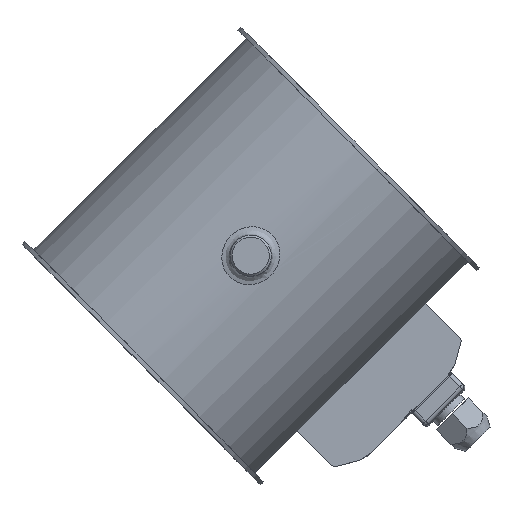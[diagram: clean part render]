
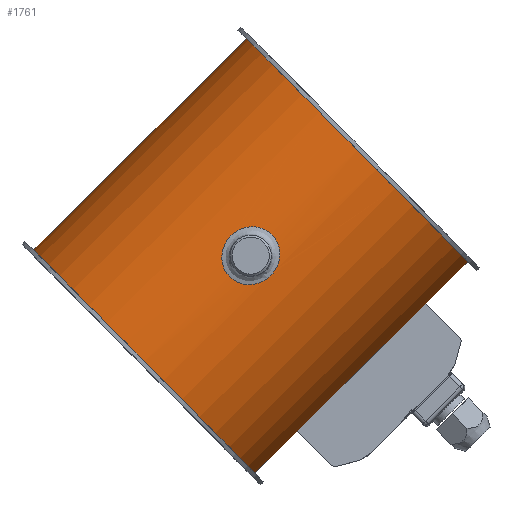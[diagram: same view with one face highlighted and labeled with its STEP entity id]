
A CAD part, top view. The second image highlights one B-rep face of the part: STEP entity #1761.
In plain terms, the highlighted cylindrical face has radius 76.5 mm (diameter 153 mm), a full revolution.
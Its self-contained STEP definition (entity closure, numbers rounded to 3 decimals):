
#1453=CARTESIAN_POINT('',(-75.015,15.0,75.0));
#1454=VERTEX_POINT('',#1453);
#1455=CARTESIAN_POINT('',(-75.015,15.0,75.0));
#1456=CARTESIAN_POINT('',(-75.015,15.0,75.944));
#1457=CARTESIAN_POINT('',(-75.033,14.909,76.92));
#1458=CARTESIAN_POINT('',(-75.108,14.529,78.86));
#1459=CARTESIAN_POINT('',(-75.164,14.238,79.824));
#1460=CARTESIAN_POINT('',(-75.376,13.089,82.594));
#1461=CARTESIAN_POINT('',(-75.575,11.936,84.278));
#1462=CARTESIAN_POINT('',(-75.947,9.278,86.936));
#1463=CARTESIAN_POINT('',(-76.145,7.594,88.089));
#1464=CARTESIAN_POINT('',(-76.353,4.823,89.238));
#1465=CARTESIAN_POINT('',(-76.409,3.86,89.529));
#1466=CARTESIAN_POINT('',(-76.482,1.92,89.909));
#1467=CARTESIAN_POINT('',(-76.5,0.944,90.0));
#1468=CARTESIAN_POINT('',(-76.5,-0.944,90.0));
#1469=CARTESIAN_POINT('',(-76.482,-1.92,89.909));
#1470=CARTESIAN_POINT('',(-76.409,-3.86,89.529));
#1471=CARTESIAN_POINT('',(-76.353,-4.823,89.238));
#1472=CARTESIAN_POINT('',(-76.145,-7.594,88.089));
#1473=CARTESIAN_POINT('',(-75.947,-9.278,86.936));
#1474=CARTESIAN_POINT('',(-75.575,-11.936,84.278));
#1475=CARTESIAN_POINT('',(-75.376,-13.089,82.594));
#1476=CARTESIAN_POINT('',(-75.164,-14.238,79.824));
#1477=CARTESIAN_POINT('',(-75.108,-14.529,78.86));
#1478=CARTESIAN_POINT('',(-75.033,-14.909,76.92));
#1479=CARTESIAN_POINT('',(-75.015,-15.0,75.944));
#1480=CARTESIAN_POINT('',(-75.015,-15.0,74.056));
#1481=CARTESIAN_POINT('',(-75.033,-14.909,73.08));
#1482=CARTESIAN_POINT('',(-75.108,-14.529,71.14));
#1483=CARTESIAN_POINT('',(-75.164,-14.238,70.176));
#1484=CARTESIAN_POINT('',(-75.376,-13.089,67.406));
#1485=CARTESIAN_POINT('',(-75.575,-11.936,65.722));
#1486=CARTESIAN_POINT('',(-75.947,-9.278,63.064));
#1487=CARTESIAN_POINT('',(-76.145,-7.594,61.911));
#1488=CARTESIAN_POINT('',(-76.353,-4.823,60.762));
#1489=CARTESIAN_POINT('',(-76.409,-3.86,60.471));
#1490=CARTESIAN_POINT('',(-76.482,-1.92,60.091));
#1491=CARTESIAN_POINT('',(-76.5,-0.944,60.0));
#1492=CARTESIAN_POINT('',(-76.5,0.944,60.0));
#1493=CARTESIAN_POINT('',(-76.482,1.92,60.091));
#1494=CARTESIAN_POINT('',(-76.409,3.86,60.471));
#1495=CARTESIAN_POINT('',(-76.353,4.823,60.762));
#1496=CARTESIAN_POINT('',(-76.145,7.594,61.911));
#1497=CARTESIAN_POINT('',(-75.947,9.278,63.064));
#1498=CARTESIAN_POINT('',(-75.575,11.936,65.722));
#1499=CARTESIAN_POINT('',(-75.376,13.089,67.406));
#1500=CARTESIAN_POINT('',(-75.164,14.238,70.176));
#1501=CARTESIAN_POINT('',(-75.108,14.529,71.14));
#1502=CARTESIAN_POINT('',(-75.033,14.909,73.08));
#1503=CARTESIAN_POINT('',(-75.015,15.0,74.056));
#1504=CARTESIAN_POINT('',(-75.015,15.0,75.));
#1505=B_SPLINE_CURVE_WITH_KNOTS('',3,(#1455,#1456,#1457,#1458,#1459,#1460,#1461,#1462,#1463,#1464,#1465,#1466,#1467,#1468,#1469,#1470,#1471,#1472,#1473,#1474,#1475,#1476,#1477,#1478,#1479,#1480,#1481,#1482,#1483,#1484,#1485,#1486,#1487,#1488,#1489,#1490,#1491,#1492,#1493,#1494,#1495,#1496,#1497,#1498,#1499,#1500,#1501,#1502,#1503,#1504),.UNSPECIFIED.,.T.,.U.,(4,2,2,2,2,2,2,2,2,2,2,2,2,2,2,2,2,2,2,2,2,2,2,2,4),(0.0,0.283,0.567,1.133,1.7,1.983,2.266,2.55,2.833,3.4,3.966,4.25,4.533,4.816,5.1,5.666,6.233,6.516,6.799,7.083,7.366,7.933,8.499,8.782,9.066),.UNSPECIFIED.);
#1506=EDGE_CURVE('',#1454,#1454,#1505,.T.);
#1688=CARTESIAN_POINT('',(75.264,13.694,75.0));
#1689=VERTEX_POINT('',#1688);
#1699=CARTESIAN_POINT('',(75.264,13.694,75.));
#1700=CARTESIAN_POINT('',(75.264,13.694,75.001));
#1701=CARTESIAN_POINT('',(75.264,13.694,75.002));
#1702=CARTESIAN_POINT('',(75.264,13.694,75.003));
#1703=CARTESIAN_POINT('',(75.264,13.694,77.164));
#1704=CARTESIAN_POINT('',(75.441,12.767,81.483));
#1705=CARTESIAN_POINT('',(76.042,8.845,86.71));
#1706=CARTESIAN_POINT('',(76.437,4.132,89.123));
#1707=CARTESIAN_POINT('',(76.52,0.017,89.621));
#1708=CARTESIAN_POINT('',(76.438,-4.091,89.138));
#1709=CARTESIAN_POINT('',(76.047,-8.814,86.729));
#1710=CARTESIAN_POINT('',(75.373,-13.192,80.957));
#1711=CARTESIAN_POINT('',(75.174,-14.166,74.216));
#1712=CARTESIAN_POINT('',(75.477,-12.521,68.615));
#1713=CARTESIAN_POINT('',(75.895,-9.811,64.392));
#1714=CARTESIAN_POINT('',(76.273,-6.342,61.885));
#1715=CARTESIAN_POINT('',(76.517,-1.764,60.384));
#1716=CARTESIAN_POINT('',(76.52,3.155,60.38));
#1717=CARTESIAN_POINT('',(76.042,8.83,63.277));
#1718=CARTESIAN_POINT('',(75.545,12.1,67.622));
#1719=CARTESIAN_POINT('',(75.308,13.46,71.733));
#1720=CARTESIAN_POINT('',(75.264,13.694,73.92));
#1721=CARTESIAN_POINT('',(75.264,13.694,75.));
#1722=B_SPLINE_CURVE_WITH_KNOTS('',3,(#1699,#1700,#1701,#1702,#1703,#1704,#1705,#1706,#1707,#1708,#1709,#1710,#1711,#1712,#1713,#1714,#1715,#1716,#1717,#1718,#1719,#1720,#1721),.UNSPECIFIED.,.T.,.U.,(4,3,1,1,1,1,1,1,1,1,1,1,1,1,1,1,1,1,4),(-6.035,-6.034,-5.603,-5.172,-4.741,-4.526,-4.31,-3.879,-3.448,-2.874,-2.586,-2.299,-1.868,-1.724,-1.293,-0.862,-0.431,-0.216,0.),.UNSPECIFIED.);
#1723=EDGE_CURVE('',#1689,#1689,#1722,.T.);
#1728=CARTESIAN_POINT('',(0.0,0.0,0.0));
#1729=DIRECTION('',(0.0,0.0,1.0));
#1730=DIRECTION('',(-1.0,0.0,0.0));
#1731=AXIS2_PLACEMENT_3D('',#1728,#1729,#1730);
#1732=CYLINDRICAL_SURFACE('',#1731,76.5);
#1733=CARTESIAN_POINT('',(76.5,0.,148.0));
#1734=VERTEX_POINT('',#1733);
#1735=CARTESIAN_POINT('',(0.0,0.0,148.0));
#1736=DIRECTION('',(0.0,0.0,-1.0));
#1737=DIRECTION('',(-1.0,0.0,0.0));
#1738=AXIS2_PLACEMENT_3D('',#1735,#1736,#1737);
#1739=CIRCLE('',#1738,76.5);
#1740=EDGE_CURVE('',#1734,#1734,#1739,.T.);
#1741=ORIENTED_EDGE('',*,*,#1740,.T.);
#1742=EDGE_LOOP('',(#1741));
#1743=FACE_OUTER_BOUND('',#1742,.T.);
#1744=ORIENTED_EDGE('',*,*,#1506,.T.);
#1745=EDGE_LOOP('',(#1744));
#1746=FACE_BOUND('',#1745,.T.);
#1747=CARTESIAN_POINT('',(-76.5,0.,2.0));
#1748=VERTEX_POINT('',#1747);
#1749=CARTESIAN_POINT('',(0.0,0.0,2.0));
#1750=DIRECTION('',(0.0,0.0,1.0));
#1751=DIRECTION('',(-1.0,0.0,0.0));
#1752=AXIS2_PLACEMENT_3D('',#1749,#1750,#1751);
#1753=CIRCLE('',#1752,76.5);
#1754=EDGE_CURVE('',#1748,#1748,#1753,.T.);
#1755=ORIENTED_EDGE('',*,*,#1754,.T.);
#1756=EDGE_LOOP('',(#1755));
#1757=FACE_BOUND('',#1756,.T.);
#1758=ORIENTED_EDGE('',*,*,#1723,.F.);
#1759=EDGE_LOOP('',(#1758));
#1760=FACE_BOUND('',#1759,.T.);
#1761=ADVANCED_FACE('',(#1743,#1746,#1757,#1760),#1732,.T.);
